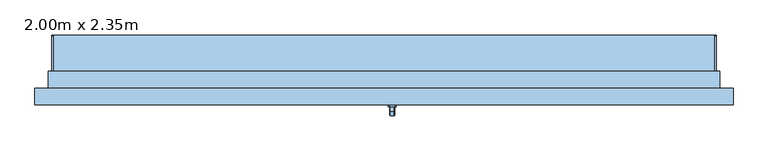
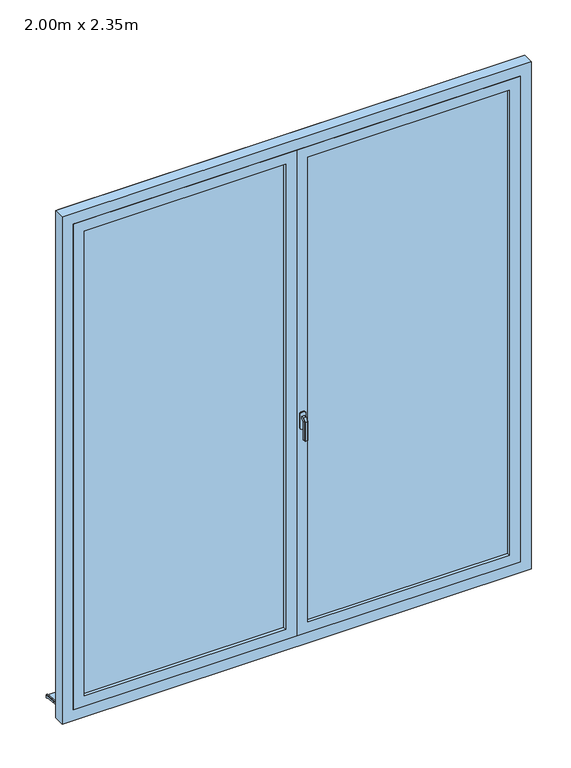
"""IFC4 building model written with IfcOpenShell, lengths in millimetres: window geometry, PF 2 Vantaux - Droits : 2.00m x 2.35m."""

from ifc_helpers import new_model, si_unit, point, frame, frame_2d, origin, place, context, project, spatial, polyline, circle_curve, trimmed, segment, composite_curve, outline, extrude, faceted_brep, source, transform, mapped, element, save


def window_2_00m_x_2_35m_2ed9f70e(model_context):
    return source(origin(), model_context, "Body", "SolidModel", [
        faceted_brep([(30.6460097, -106.0, 1122.0339292), (32.0339292, -106.0, 1120.6460097), (32.0339292, -106.0, 1109.3323012), (30.6676988, -106.0, 1107.9660708), (19.3323012, -106.0, 1107.9660708), (17.9660708, -106.0, 1109.3323012), (17.9660708, -106.0, 1120.6460097), (19.3539903, -106.0, 1122.0339292), (30.6460097, -118.9135489, 1122.0339292), (32.0339292, -118.3386538, 1120.6460097), (32.0339292, -131.6460097, 1107.3386538), (32.0339292, -131.6460097, 1020.0), (32.0339292, -120.3323012, 1020.0), (32.0339292, -120.3323012, 1102.6523623), (32.0339292, -113.6523623, 1109.3323012), (30.6676988, -113.0864511, 1107.9660708), (19.3323012, -113.0864511, 1107.9660708), (17.9660708, -113.6523623, 1109.3323012), (17.9660708, -120.3323012, 1102.6523623), (17.9660708, -120.3323012, 1020.0), (17.9660708, -131.6460097, 1020.0), (17.9660708, -131.6460097, 1107.3386538), (17.9660708, -118.3386538, 1120.6460097), (19.3539903, -118.9135489, 1122.0339292), (30.6460097, -133.0339292, 1107.9135489), (30.6676988, -118.9660708, 1102.0864511), (19.3323012, -118.9660708, 1102.0864511), (19.3539903, -133.0339292, 1107.9135489), (30.6460097, -133.0339292, 1020.0), (19.3539903, -133.0339292, 1020.0), (19.3323012, -118.9660708, 1020.0), (30.6676988, -118.9660708, 1020.0)], [[[0, 1, 2, 3, 4, 5, 6, 7]], [[1, 0, 8, 9]], [[2, 1, 9, 10, 11, 12, 13, 14]], [[3, 2, 14, 15]], [[4, 3, 15, 16]], [[5, 4, 16, 17]], [[6, 5, 17, 18, 19, 20, 21, 22]], [[7, 6, 22, 23]], [[0, 7, 23, 8]], [[9, 8, 24, 10]], [[15, 14, 13, 25]], [[16, 15, 25, 26]], [[17, 16, 26, 18]], [[23, 22, 21, 27]], [[8, 23, 27, 24]], [[28, 29, 20, 19, 30, 31, 12, 11]], [[10, 24, 28, 11]], [[25, 13, 12, 31]], [[26, 25, 31, 30]], [[18, 26, 30, 19]], [[27, 21, 20, 29]], [[24, 27, 29, 28]]]),
        extrude(outline(polyline([(1140.0, 32.0), (1140.0, 18.0), (1135.0, 13.0), (1065.0, 13.0), (1060.0, 18.0), (1060.0, 32.0), (1065.0, 37.0), (1135.0, 37.0), (1140.0, 32.0)])), frame((0.0, -106.0, 0.0), z_axis=(0.0, 1.0, 0.0), x_axis=(0.0, 0.0, 1.0)), (0.0, 0.0, 1.0), 6.0),
        extrude(outline(polyline([(110.0288776, 26.588626), (110.0288776, 15.5104235), (105.0288776, 16.0359447), (105.0288776, 21.8589354), (-20.0, 35.0), (-20.0, 50.0), (-15.0, 50.0), (-15.0, 39.7296906), (110.0288776, 26.588626)])), frame((-1000.0, 0.0, 0.0), z_axis=(1.0, 0.0, 0.0), x_axis=(0.0, 1.0, 0.0)), (0.0, 0.0, 1.0), 2000.0),
        extrude(outline(composite_curve([segment(polyline([(110.0288776, 26.588626), (-15.0, 39.7296906), (-15.0, 44.757232), (106.4469915, 31.9926388)]), True, "CONTINUOUS"), segment(trimmed(circle_curve(frame_2d((106.0288776, 28.0145512)), 4.0), [point((106.4469915, 31.9926388))], [point((110.0288776, 28.0145512))], False, "CARTESIAN"), True, "CONTINUOUS"), segment(polyline([(110.0288776, 28.0145512), (110.0288776, 26.588626)]), True, "CONTINUOUS")], self_intersect=False)), frame((-1000.0, 0.0, 0.0), z_axis=(1.0, 0.0, 0.0), x_axis=(0.0, 1.0, 0.0)), (0.0, 0.0, 1.0), 5.0),
        extrude(outline(composite_curve([segment(polyline([(110.0288776, 26.588626), (-15.0, 39.7296906), (-15.0, 44.757232), (106.4469915, 31.9926388)]), True, "CONTINUOUS"), segment(trimmed(circle_curve(frame_2d((106.0288776, 28.0145512)), 4.0), [point((106.4469915, 31.9926388))], [point((110.0288776, 28.0145512))], False, "CARTESIAN"), True, "CONTINUOUS"), segment(polyline([(110.0288776, 28.0145512), (110.0288776, 26.588626)]), True, "CONTINUOUS")], self_intersect=False)), frame((995.0, 0.0, 0.0), z_axis=(1.0, 0.0, 0.0), x_axis=(0.0, 1.0, 0.0)), (0.0, 0.0, 1.0), 5.0),
        extrude(outline(polyline([(85.0, 0.0), (2385.0, 0.0), (2385.0, -1000.0), (85.0, -1000.0), (85.0, 0.0)]), holes=[polyline([(135.0, -950.0), (2335.0, -950.0), (2335.0, -50.0), (135.0, -50.0), (135.0, -950.0)])]), frame((0.0, -100.0, 0.0), z_axis=(0.0, 1.0, 0.0), x_axis=(0.0, 0.0, 1.0)), (0.0, 0.0, 1.0), 40.0),
        extrude(outline(polyline([(50.0, -74.0), (950.0, -74.0), (950.0, -86.0), (50.0, -86.0), (50.0, -74.0)])), frame((0.0, 0.0, 135.0), z_axis=(0.0, 0.0, 1.0), x_axis=(1.0, 0.0, 0.0)), (0.0, 0.0, 1.0), 2200.0),
        extrude(outline(polyline([(-950.0, -74.0), (-50.0, -74.0), (-50.0, -86.0), (-950.0, -86.0), (-950.0, -74.0)])), frame((0.0, 0.0, 135.0), z_axis=(0.0, 0.0, 1.0), x_axis=(1.0, 0.0, 0.0)), (0.0, 0.0, 1.0), 2200.0),
        extrude(outline(polyline([(85.0, 1000.0), (2385.0, 1000.0), (2385.0, 0.0), (85.0, 0.0), (85.0, 1000.0)]), holes=[polyline([(135.0, 50.0), (2335.0, 50.0), (2335.0, 950.0), (135.0, 950.0), (135.0, 50.0)])]), frame((0.0, -100.0, 0.0), z_axis=(0.0, 1.0, 0.0), x_axis=(0.0, 0.0, 1.0)), (0.0, 0.0, 1.0), 40.0),
        faceted_brep([(-1050.0, -100.0, 35.0), (-1050.0, -50.0, 35.0), (-1000.0, -50.0, 35.0), (-1000.0, -20.0, 35.0), (1000.0, -20.0, 35.0), (1000.0, -50.0, 35.0), (1050.0, -50.0, 35.0), (1050.0, -100.0, 35.0), (-1050.0, -100.0, 2435.0), (-1050.0, -50.0, 2435.0), (1050.0, -50.0, 2435.0), (1000.0, -50.0, 74.3761425), (-1000.0, -50.0, 74.3761425), (-985.0, -50.0, 2370.0), (-985.0, -50.0, 100.0), (985.0, -50.0, 100.0), (985.0, -50.0, 2370.0), (-1000.0, 0.0, 60.9786829), (-1000.0, 0.0, 45.0), (-1000.0, -10.0, 45.0), (-1000.0, -10.0, 50.0), (-1000.0, -20.0, 50.0), (1000.0, -20.0, 50.0), (1000.0, -10.0, 50.0), (1000.0, -10.0, 45.0), (1000.0, 0.0, 45.0), (1000.0, 0.0, 60.9786829), (1050.0, -100.0, 2435.0), (1000.0, -100.0, 2385.0), (1000.0, -100.0, 85.0), (-1000.0, -100.0, 85.0), (-1000.0, -100.0, 2385.0), (-985.0, -60.0, 2370.0), (-985.0, -60.0, 100.0), (985.0, -60.0, 100.0), (985.0, -60.0, 2370.0), (1000.0, -60.0, 2385.0), (-1000.0, -60.0, 2385.0), (-1000.0, -60.0, 85.0), (1000.0, -60.0, 85.0)], [[[0, 1, 2, 3, 4, 5, 6, 7]], [[1, 0, 8, 9]], [[1, 9, 10, 6, 5, 11, 12, 2], [13, 14, 15, 16]], [[12, 17, 18, 19, 20, 21, 3, 2]], [[3, 21, 22, 4]], [[4, 22, 23, 24, 25, 26, 11, 5]], [[6, 10, 27, 7]], [[0, 7, 27, 8], [28, 29, 30, 31]], [[13, 32, 33, 14]], [[33, 34, 15, 14]], [[35, 16, 15, 34]], [[17, 12, 11, 26]], [[36, 37, 38, 39], [32, 35, 34, 33]], [[38, 37, 31, 30]], [[30, 29, 39, 38]], [[28, 36, 39, 29]], [[18, 17, 26, 25]], [[19, 18, 25, 24]], [[20, 19, 24, 23]], [[21, 20, 23, 22]], [[13, 16, 35, 32]], [[10, 9, 8, 27]], [[37, 36, 28, 31]]]),
        extrude(outline(polyline([(35.0, -1010.0), (35.0, -1000.0), (2385.0, -1000.0), (2385.0, 1000.0), (35.0, 1000.0), (35.0, 1010.0), (2395.0, 1010.0), (2395.0, -1010.0), (35.0, -1010.0)])), frame((0.0, -50.0, 0.0), z_axis=(0.0, 1.0, 0.0), x_axis=(0.0, 0.0, 1.0)), (0.0, 0.0, 1.0), 50.0),
        extrude(outline(polyline([(20.0, -52.0), (20.0, -60.0), (-20.0, -60.0), (-20.0, -52.0), (20.0, -52.0)])), frame((0.0, 0.0, 100.0), z_axis=(0.0, 0.0, 1.0), x_axis=(1.0, 0.0, 0.0)), (0.0, 0.0, 1.0), 2270.0),
    ])


if __name__ == "__main__":
    model = new_model("IFC4")
    model_context = context("Model", 3, world=origin())
    ifc_project = project(units=[si_unit("LENGTHUNIT", "METRE", prefix="MILLI")], contexts=[model_context])
    site = spatial("IfcSite", under=ifc_project)
    building = spatial("IfcBuilding", under=site)
    placement = place(None, origin())
    window_2_00m_x_2_35m_shape = window_2_00m_x_2_35m_2ed9f70e(model_context)
    element("IfcWindow", 1, ObjectType="PF 2 Vantaux - Droits : 2.00m x 2.35m", at=placement, inside=building, context=model_context, shape_type="MappedRepresentation", body=[
        mapped(window_2_00m_x_2_35m_shape, transform((0.0, 0.0, 0.0), x_axis=(1.0, 0.0, 0.0), y_axis=(0.0, 1.0, 0.0), z_axis=(0.0, 0.0, 1.0))),
    ])
    save(model, "model.ifc")
